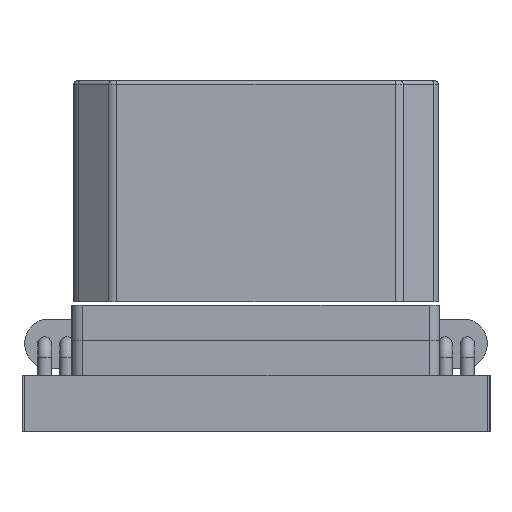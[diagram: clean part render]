
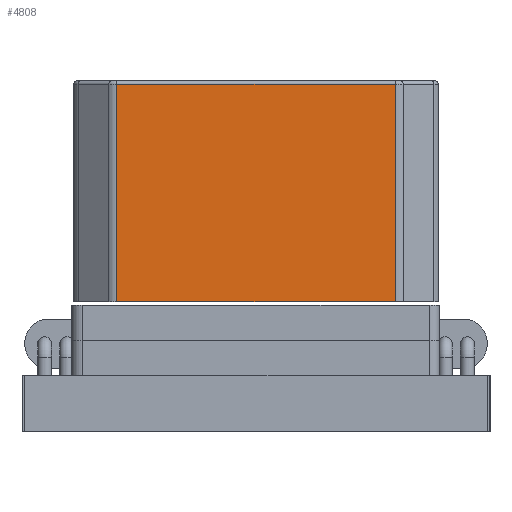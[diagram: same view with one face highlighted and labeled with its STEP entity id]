
A CAD part, front view. The second image highlights one B-rep face of the part: STEP entity #4808.
In plain terms, the highlighted planar face has unit normal (0, -1, 0) as drawn and (0, 1, 0) by its records, which use the part's own axes.
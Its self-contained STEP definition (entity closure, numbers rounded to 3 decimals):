
#3595 = VERTEX_POINT('',#3596);
#3596 = CARTESIAN_POINT('',(3.972,-3.,6.3));
#3603 = EDGE_CURVE('',#3604,#3595,#3606,.T.);
#3604 = VERTEX_POINT('',#3605);
#3605 = CARTESIAN_POINT('',(-3.972,-3.,6.3));
#3606 = LINE('',#3607,#3608);
#3607 = CARTESIAN_POINT('',(-4.1,-3.,6.3));
#3608 = VECTOR('',#3609,1.);
#3609 = DIRECTION('',(1.,0.,0.));
#4808 = ADVANCED_FACE('',(#4809),#4834,.F.);
#4809 = FACE_BOUND('',#4810,.T.);
#4810 = EDGE_LOOP('',(#4811,#4819,#4827,#4833));
#4811 = ORIENTED_EDGE('',*,*,#4812,.T.);
#4812 = EDGE_CURVE('',#3595,#4813,#4815,.T.);
#4813 = VERTEX_POINT('',#4814);
#4814 = CARTESIAN_POINT('',(3.972,-3.,0.1));
#4815 = LINE('',#4816,#4817);
#4816 = CARTESIAN_POINT('',(3.972,-3.,0.));
#4817 = VECTOR('',#4818,1.);
#4818 = DIRECTION('',(0.,0.,-1.));
#4819 = ORIENTED_EDGE('',*,*,#4820,.T.);
#4820 = EDGE_CURVE('',#4813,#4821,#4823,.T.);
#4821 = VERTEX_POINT('',#4822);
#4822 = CARTESIAN_POINT('',(-3.972,-3.,0.1));
#4823 = LINE('',#4824,#4825);
#4824 = CARTESIAN_POINT('',(-3.972,-3.,0.1));
#4825 = VECTOR('',#4826,1.);
#4826 = DIRECTION('',(-1.,0.,0.));
#4827 = ORIENTED_EDGE('',*,*,#4828,.T.);
#4828 = EDGE_CURVE('',#4821,#3604,#4829,.T.);
#4829 = LINE('',#4830,#4831);
#4830 = CARTESIAN_POINT('',(-3.972,-3.,0.));
#4831 = VECTOR('',#4832,1.);
#4832 = DIRECTION('',(0.,0.,1.));
#4833 = ORIENTED_EDGE('',*,*,#3603,.T.);
#4834 = PLANE('',#4835);
#4835 = AXIS2_PLACEMENT_3D('',#4836,#4837,#4838);
#4836 = CARTESIAN_POINT('',(-4.1,-3.,0.));
#4837 = DIRECTION('',(0.,-1.,0.));
#4838 = DIRECTION('',(0.,0.,-1.));
